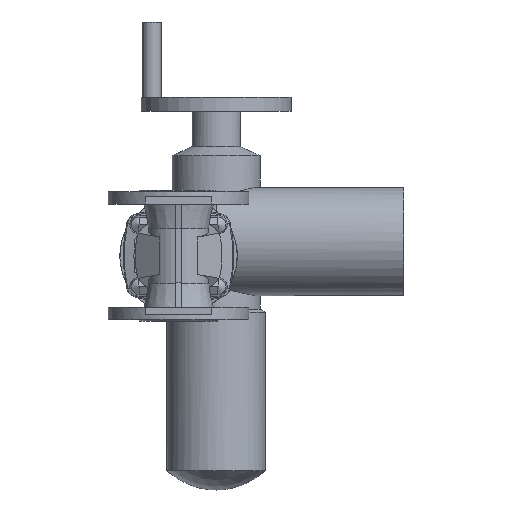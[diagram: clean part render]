
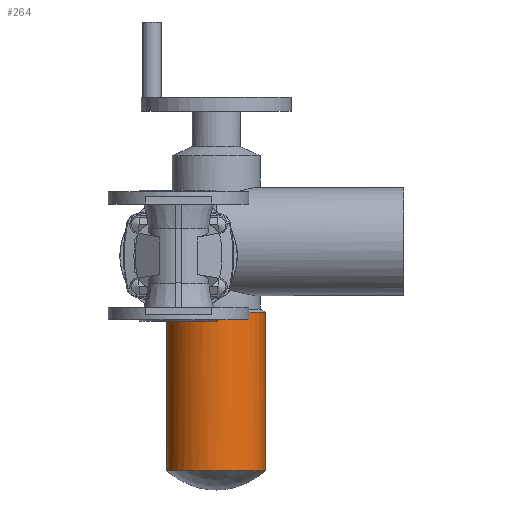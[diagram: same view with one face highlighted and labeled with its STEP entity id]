
A CAD part, front view. The second image highlights one B-rep face of the part: STEP entity #264.
In plain terms, the highlighted cylindrical face has radius 52.5 mm (diameter 105 mm), a full revolution.
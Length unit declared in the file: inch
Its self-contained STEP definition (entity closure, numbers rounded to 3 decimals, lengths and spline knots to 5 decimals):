
#65 = EDGE_LOOP ( 'NONE', ( #843 ) ) ;
#71 = EDGE_LOOP ( 'NONE', ( #844, #845 ) ) ;
#153 = B_SPLINE_CURVE_WITH_KNOTS ( 'NONE', 3,
 ( #3826, #3761, #3827, #3828, #3829, #3830, #3831, #3832, #3833, #3834, #3835, #3836, #3837, #3838, #3839, #3840, #3841, #3842, #3843, #3844, #3845, #3846, #3847, #3848, #3849, #3850, #3851, #3852, #3853, #3854, #3855, #3856, #3857, #3858, #3859, #3860, #3861, #3862, #3863, #3864, #3865, #3866, #3867, #3868, #3869, #3870, #3871, #3872, #3873, #3874 ),
 .UNSPECIFIED., .F., .F.,
 ( 4, 2, 2, 2, 2, 2, 2, 2, 2, 2, 2, 2, 2, 2, 2, 2, 2, 2, 2, 2, 2, 2, 2, 2, 4 ),
 ( 0.13161, 0.13526, 0.13891, 0.14621, 0.14987, 0.15352, 0.16082, 0.16447, 0.16812, 0.17543, 0.17908, 0.1809, 0.18273, 0.19003, 0.19734, 0.20464, 0.21194, 0.21377, 0.2156, 0.21925, 0.22655, 0.2302, 0.23385, 0.24116, 0.24846 ),
 .UNSPECIFIED. ) ;
#200 = EDGE_CURVE ( 'NONE', #2754, #2720, #153, .T. ) ;
#202 = EDGE_CURVE ( 'NONE', #8721, #8721, #3102, .T. ) ;
#203 = EDGE_CURVE ( 'NONE', #2754, #2720, #3106, .T. ) ;
#264 = ADVANCED_FACE ( 'NONE', ( #3186, #3188 ), #3194, .T. ) ;
#843 = ORIENTED_EDGE ( 'NONE', *, *, #202, .T. ) ;
#844 = ORIENTED_EDGE ( 'NONE', *, *, #203, .F. ) ;
#845 = ORIENTED_EDGE ( 'NONE', *, *, #200, .T. ) ;
#2720 = VERTEX_POINT ( 'NONE', #8160 ) ;
#2754 = VERTEX_POINT ( 'NONE', #8194 ) ;
#3102 = CIRCLE ( 'NONE', #3647, 2.06693 ) ;
#3106 = CIRCLE ( 'NONE', #3648, 2.06693 ) ;
#3186 = FACE_OUTER_BOUND ( 'NONE', #65, .T. ) ;
#3188 = FACE_OUTER_BOUND ( 'NONE', #71, .T. ) ;
#3194 = CYLINDRICAL_SURFACE ( 'NONE', #3680, 2.06693 ) ;
#3647 = AXIS2_PLACEMENT_3D ( 'NONE', #3884, #3885, #3886 ) ;
#3648 = AXIS2_PLACEMENT_3D ( 'NONE', #3888, #3889, #3890 ) ;
#3680 = AXIS2_PLACEMENT_3D ( 'NONE', #4273, #4274, #4271 ) ;
#3761 = CARTESIAN_POINT ( 'NONE',  ( 0.62708, 9.75704, -2.37979 ) ) ;
#3826 = CARTESIAN_POINT ( 'NONE',  ( 0.66926, 9.73648, -2.36787 ) ) ;
#3827 = CARTESIAN_POINT ( 'NONE',  ( 0.58486, 9.77942, -2.39049 ) ) ;
#3828 = CARTESIAN_POINT ( 'NONE',  ( 0.5023, 9.82695, -2.40919 ) ) ;
#3829 = CARTESIAN_POINT ( 'NONE',  ( 0.46185, 9.85213, -2.41723 ) ) ;
#3830 = CARTESIAN_POINT ( 'NONE',  ( 0.34306, 9.93193, -2.43792 ) ) ;
#3831 = CARTESIAN_POINT ( 'NONE',  ( 0.26727, 9.99076, -2.44714 ) ) ;
#3832 = CARTESIAN_POINT ( 'NONE',  ( 0.15912, 10.08771, -2.45575 ) ) ;
#3833 = CARTESIAN_POINT ( 'NONE',  ( 0.1239, 10.12159, -2.45774 ) ) ;
#3834 = CARTESIAN_POINT ( 'NONE',  ( 0.05644, 10.19124, -2.46021 ) ) ;
#3835 = CARTESIAN_POINT ( 'NONE',  ( 0.02406, 10.22711, -2.46071 ) ) ;
#3836 = CARTESIAN_POINT ( 'NONE',  ( -0.06907, 10.33783, -2.46044 ) ) ;
#3837 = CARTESIAN_POINT ( 'NONE',  ( -0.12584, 10.41577, -2.45795 ) ) ;
#3838 = CARTESIAN_POINT ( 'NONE',  ( -0.20293, 10.53893, -2.45238 ) ) ;
#3839 = CARTESIAN_POINT ( 'NONE',  ( -0.22735, 10.58119, -2.45021 ) ) ;
#3840 = CARTESIAN_POINT ( 'NONE',  ( -0.27285, 10.66674, -2.44556 ) ) ;
#3841 = CARTESIAN_POINT ( 'NONE',  ( -0.29399, 10.71011, -2.44308 ) ) ;
#3842 = CARTESIAN_POINT ( 'NONE',  ( -0.35268, 10.84199, -2.43554 ) ) ;
#3843 = CARTESIAN_POINT ( 'NONE',  ( -0.38554, 10.93226, -2.43039 ) ) ;
#3844 = CARTESIAN_POINT ( 'NONE',  ( -0.42538, 11.07123, -2.42362 ) ) ;
#3845 = CARTESIAN_POINT ( 'NONE',  ( -0.43708, 11.11816, -2.42152 ) ) ;
#3846 = CARTESIAN_POINT ( 'NONE',  ( -0.4522, 11.18948, -2.41873 ) ) ;
#3847 = CARTESIAN_POINT ( 'NONE',  ( -0.45684, 11.2134, -2.41785 ) ) ;
#3848 = CARTESIAN_POINT ( 'NONE',  ( -0.46522, 11.26118, -2.41626 ) ) ;
#3849 = CARTESIAN_POINT ( 'NONE',  ( -0.46898, 11.28509, -2.41553 ) ) ;
#3850 = CARTESIAN_POINT ( 'NONE',  ( -0.48566, 11.40467, -2.41227 ) ) ;
#3851 = CARTESIAN_POINT ( 'NONE',  ( -0.49222, 11.50053, -2.4109 ) ) ;
#3852 = CARTESIAN_POINT ( 'NONE',  ( -0.49203, 11.69265, -2.41094 ) ) ;
#3853 = CARTESIAN_POINT ( 'NONE',  ( -0.48526, 11.78894, -2.41235 ) ) ;
#3854 = CARTESIAN_POINT ( 'NONE',  ( -0.45785, 11.98181, -2.4177 ) ) ;
#3855 = CARTESIAN_POINT ( 'NONE',  ( -0.43753, 12.0761, -2.42157 ) ) ;
#3856 = CARTESIAN_POINT ( 'NONE',  ( -0.3842, 12.26061, -2.4306 ) ) ;
#3857 = CARTESIAN_POINT ( 'NONE',  ( -0.35119, 12.35084, -2.43576 ) ) ;
#3858 = CARTESIAN_POINT ( 'NONE',  ( -0.30185, 12.46107, -2.44207 ) ) ;
#3859 = CARTESIAN_POINT ( 'NONE',  ( -0.29157, 12.48299, -2.44332 ) ) ;
#3860 = CARTESIAN_POINT ( 'NONE',  ( -0.2702, 12.52656, -2.44577 ) ) ;
#3861 = CARTESIAN_POINT ( 'NONE',  ( -0.25908, 12.54824, -2.44698 ) ) ;
#3862 = CARTESIAN_POINT ( 'NONE',  ( -0.22475, 12.6124, -2.45045 ) ) ;
#3863 = CARTESIAN_POINT ( 'NONE',  ( -0.20049, 12.65414, -2.45258 ) ) ;
#3864 = CARTESIAN_POINT ( 'NONE',  ( -0.12362, 12.77636, -2.45806 ) ) ;
#3865 = CARTESIAN_POINT ( 'NONE',  ( -0.06698, 12.85385, -2.4605 ) ) ;
#3866 = CARTESIAN_POINT ( 'NONE',  ( 0.02606, 12.96412, -2.46069 ) ) ;
#3867 = CARTESIAN_POINT ( 'NONE',  ( 0.05842, 12.99988, -2.46017 ) ) ;
#3868 = CARTESIAN_POINT ( 'NONE',  ( 0.12592, 13.06937, -2.45764 ) ) ;
#3869 = CARTESIAN_POINT ( 'NONE',  ( 0.16121, 13.10323, -2.45561 ) ) ;
#3870 = CARTESIAN_POINT ( 'NONE',  ( 0.26942, 13.19996, -2.44691 ) ) ;
#3871 = CARTESIAN_POINT ( 'NONE',  ( 0.34504, 13.25848, -2.43763 ) ) ;
#3872 = CARTESIAN_POINT ( 'NONE',  ( 0.50254, 13.36408, -2.41009 ) ) ;
#3873 = CARTESIAN_POINT ( 'NONE',  ( 0.58444, 13.41115, -2.39184 ) ) ;
#3874 = CARTESIAN_POINT ( 'NONE',  ( 0.66926, 13.45249, -2.36787 ) ) ;
#3884 = CARTESIAN_POINT ( 'NONE',  ( 1.5748, 11.59449, -9.01387 ) ) ;
#3885 = DIRECTION ( 'NONE',  ( 0., 0., 1. ) ) ;
#3886 = DIRECTION ( 'NONE',  ( 1., 0., 0. ) ) ;
#3888 = CARTESIAN_POINT ( 'NONE',  ( 1.5748, 11.59449, -2.36787 ) ) ;
#3889 = DIRECTION ( 'NONE',  ( 0., 0., 1. ) ) ;
#3890 = DIRECTION ( 'NONE',  ( 1., 0., 0. ) ) ;
#4271 = DIRECTION ( 'NONE',  ( 1., 0., 0. ) ) ;
#4273 = CARTESIAN_POINT ( 'NONE',  ( 1.5748, 11.59449, 0.59055 ) ) ;
#4274 = DIRECTION ( 'NONE',  ( 0., 0., 1. ) ) ;
#8160 = CARTESIAN_POINT ( 'NONE',  ( 0.66926, 13.45249, -2.36787 ) ) ;
#8194 = CARTESIAN_POINT ( 'NONE',  ( 0.66926, 9.73648, -2.36787 ) ) ;
#8721 = VERTEX_POINT ( 'NONE', #8822 ) ;
#8822 = CARTESIAN_POINT ( 'NONE',  ( 3.64173, 11.59449, -9.01387 ) ) ;
